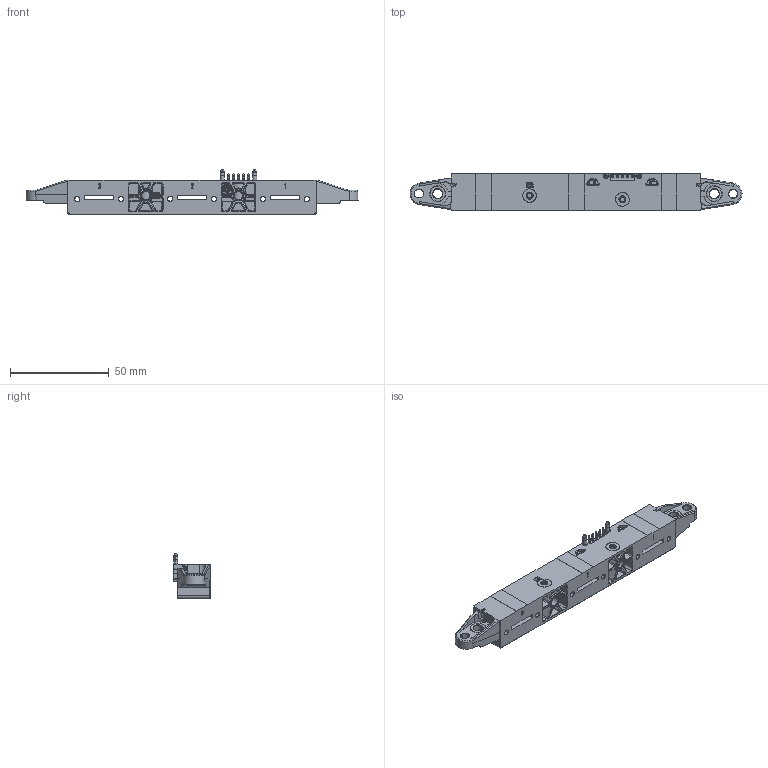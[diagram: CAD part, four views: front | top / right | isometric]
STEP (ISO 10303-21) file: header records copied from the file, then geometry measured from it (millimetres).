
FILE_DESCRIPTION(('Creo Elements/Direct Modeling STEP Export'),'2;1');
FILE_NAME('BBOX_HAH3DR_SP7S07.stp','2022-10-25T11:06:26',(''),(''),'Creo Elements/Direct Modeling STEP processor for AP214 (Solid Model)','Creo Elements/Direct Modeling 20.1 10-Mar-2018 (C) Parametric Technology GmbH','');
FILE_SCHEMA(('AUTOMOTIVE_DESIGN { 1 0 10303 214 1 1 1 1 }'));
Products named in the file (5): B_sample_PCB-Cover.1.1; cover_assembly; HAH3DR_S07_SP07_NEW.PRT; Overmold_case.1_BBOX; BBox_HAH3DR_1500_S07_SP7
Assembly tree (4 placements, depth 3):
  BBox_HAH3DR_1500_S07_SP7
    Overmold_case.1_BBOX
      HAH3DR_S07_SP07_NEW.PRT
    cover_assembly
      B_sample_PCB-Cover.1.1
Bounding box: 168 x 18.66 x 22.91 mm (x, y, z)
Volume: 29712.3 mm3; surface area: 22554.6 mm2
Topology: 2 solids, 2 shells, 4618 faces, 12214 edges, 7610 vertices
Faces by surface type: plane 2086, cylinder 1549, bspline 589, torus 232, cone 94, sphere 68
Entity records: 212863 total; most frequent: CARTESIAN_POINT 99867, ORIENTED_EDGE 24230, DIRECTION 19964, EDGE_CURVE 12113, VERTEX_POINT 7610, VECTOR 7024, LINE 7024, AXIS2_PLACEMENT_3D 6470
